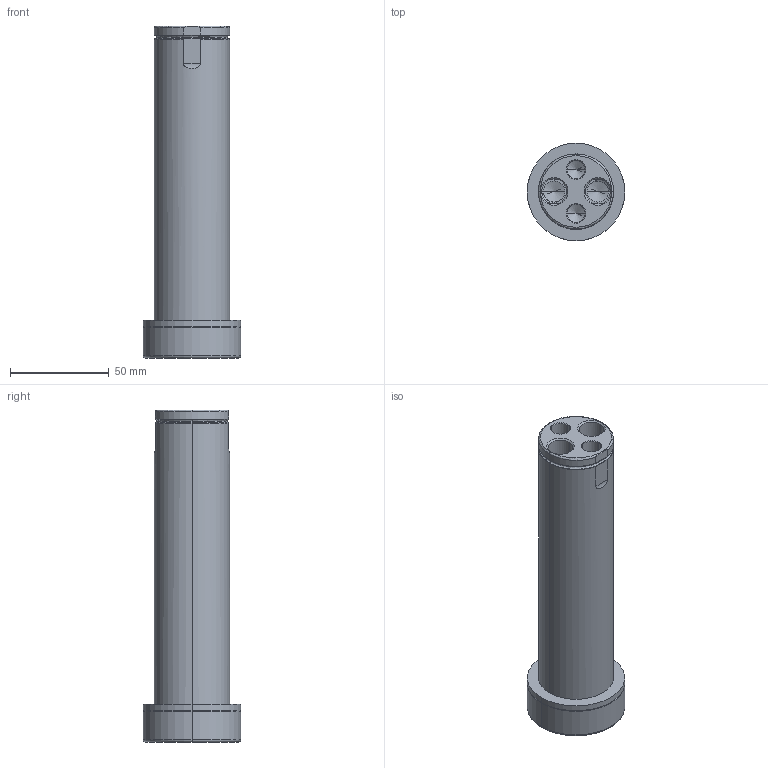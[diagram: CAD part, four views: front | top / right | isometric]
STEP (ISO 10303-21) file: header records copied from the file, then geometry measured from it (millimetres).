
FILE_DESCRIPTION (( 'STEP AP214' ), '1' );
FILE_NAME ('GK150-E-6-GuidePin.STEP', '2010-11-16T20:25:44', ( ' ' ), ( '' ), 'SwSTEP 2.0', 'SolidWorks 2010', '' );
FILE_SCHEMA (( 'AUTOMOTIVE_DESIGN' ));
Length unit declared in the file: inch
Products named in the file (1): GK150-E-6-GuidePin
Bounding box: 49.53 x 49.53 x 168.28 mm (x, y, z)
Volume: 194074.6 mm3; surface area: 31023.5 mm2
Topology: 2 solids, 2 shells, 84 faces, 194 edges, 111 vertices
Faces by surface type: cylinder 29, cone 20, torus 18, plane 13, bspline 4
Entity records: 5775 total; most frequent: CARTESIAN_POINT 3606, DIRECTION 423, ORIENTED_EDGE 372, EDGE_CURVE 186, AXIS2_PLACEMENT_3D 180, VERTEX_POINT 111, CIRCLE 99, EDGE_LOOP 91
